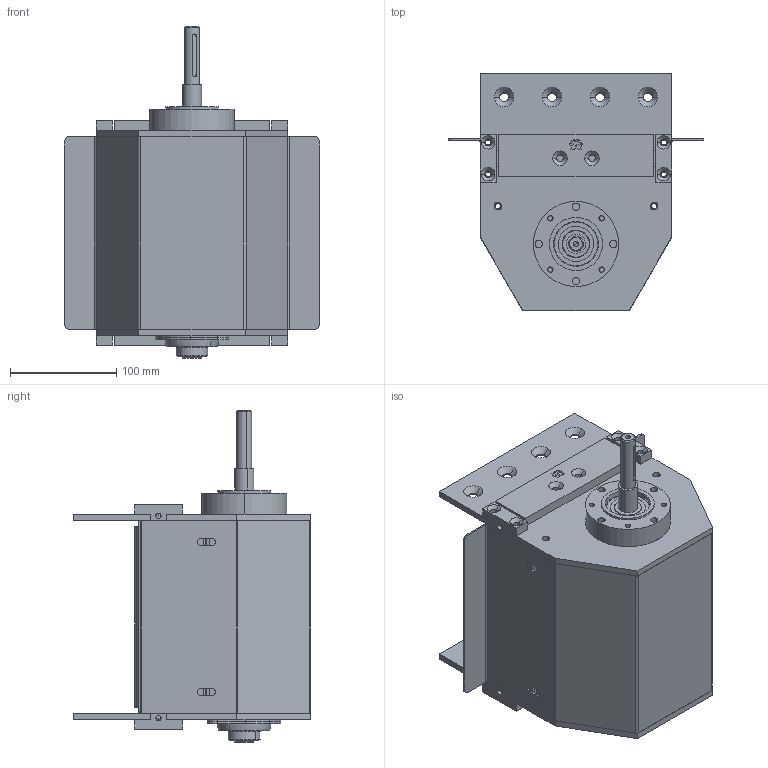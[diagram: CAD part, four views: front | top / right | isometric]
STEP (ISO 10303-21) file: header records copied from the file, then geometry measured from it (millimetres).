
FILE_DESCRIPTION (( 'STEP AP203' ), '1' );
FILE_NAME ('084.050.KCS.30.150.STEP', '2019-07-29T13:45:12', ( '' ), ( '' ), 'SwSTEP 2.0', 'SolidWorks 2018', '' );
FILE_SCHEMA (( 'CONFIG_CONTROL_DESIGN' ));
Length unit declared in the file: millimetre
Products named in the file (15): 084.810.003; 084.817.048; 084.802.003; 084.802.009; 084.817.006; 084.050.KCS.30.150; 084.802.021; TRAVERSA PER CARTER^084.050.KCS.30.150_Default<A macchina>; 084.802.004-1; 084.817.005_Default<A macchina>; 084.817.007; 084.817.008; CUSCINETTI A SFERE_6004-2RS; 084.802.020; 084.802.012_Solo centrale
Assembly tree (26 placements, depth 2):
  084.050.KCS.30.150
    084.817.008  x2
    084.817.005_Default<A macchina>
    084.817.006
    084.817.007  x2
    TRAVERSA PER CARTER^084.050.KCS.30.150_Default<A macchina>  x2
    084.802.021
    084.810.003  x2
    084.802.004-1  x4
    084.802.020
    084.802.003  x2
    CUSCINETTI A SFERE_6004-2RS  x4
    084.817.048
    084.802.009
    084.802.012_Solo centrale  x2
Bounding box: 240 x 223 x 312 mm (x, y, z)
Volume: 1760291.5 mm3; surface area: 916474 mm2
Topology: 28 solids, 28 shells, 1149 faces, 2923 edges, 1890 vertices
Faces by surface type: plane 546, cylinder 397, cone 120, torus 76, sphere 10
Entity records: 23074 total; most frequent: DIRECTION 3871, CARTESIAN_POINT 3713, ORIENTED_EDGE 3462, EDGE_CURVE 1731, AXIS2_PLACEMENT_3D 1435, VERTEX_POINT 1117, VECTOR 1001, LINE 1001
